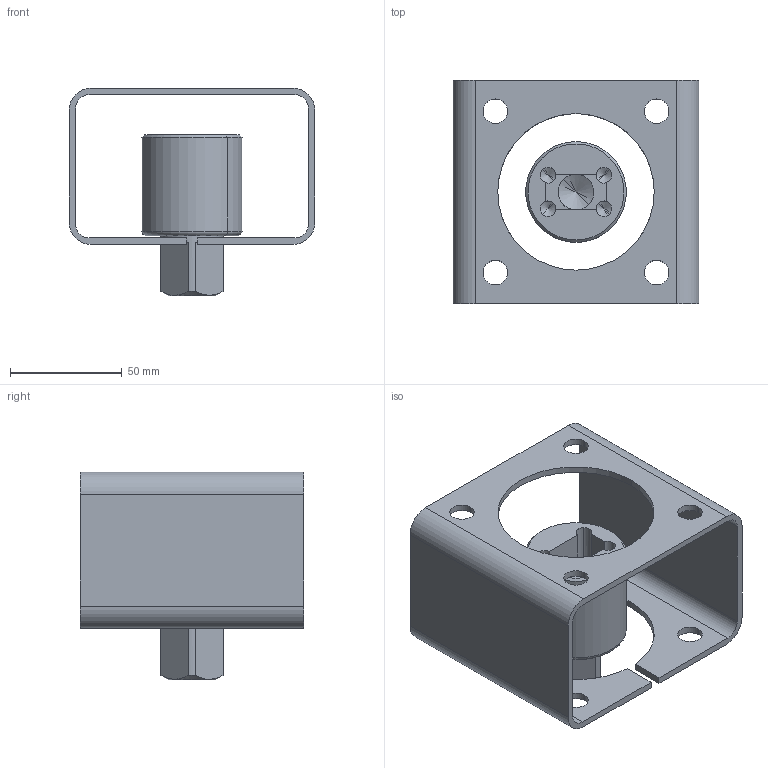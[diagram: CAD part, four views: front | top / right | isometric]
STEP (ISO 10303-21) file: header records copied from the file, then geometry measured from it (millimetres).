
FILE_DESCRIPTION((''),'2;1');
FILE_NAME('74754546000_ASM','2022-11-17T10:03:36',('alfio.taboni'),('CDM Tecnoconsulting'),'CREO PARAMETRIC BY PTC INC, 2020053','CREO PARAMETRIC BY PTC INC, 2020053','');
FILE_SCHEMA(('CONFIG_CONTROL_DESIGN','SHAPE_APPEARANCE_LAYERS_GROUPS'));
Length unit declared in the file: millimetre
Products named in the file (3): 74701046000; 74850036200; 74754546000_ASM
Assembly tree (2 placements, depth 2):
  74754546000_ASM
    74701046000
    74850036200
Bounding box: 110 x 100 x 93 mm (x, y, z)
Volume: 142484.3 mm3; surface area: 68667.9 mm2
Topology: 2 solids, 2 shells, 249 faces, 686 edges, 447 vertices
Faces by surface type: plane 135, extrusion 56, cylinder 42, cone 14, torus 2
Entity records: 8156 total; most frequent: CARTESIAN_POINT 1860, ORIENTED_EDGE 1352, DIRECTION 1120, EDGE_CURVE 676, VECTOR 504, LINE 448, VERTEX_POINT 447, AXIS2_PLACEMENT_3D 308
